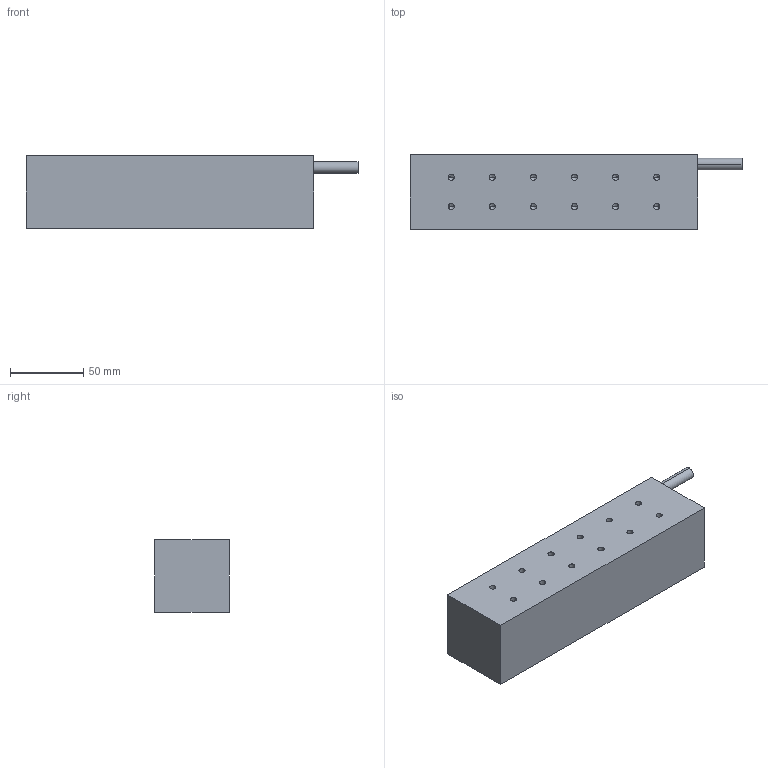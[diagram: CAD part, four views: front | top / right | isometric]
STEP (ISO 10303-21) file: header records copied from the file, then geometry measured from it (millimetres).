
FILE_DESCRIPTION (( 'STEP AP214' ), '1' );
FILE_NAME ('WKM30B雄赽.STEP', '2025-09-05T11:37:24', ( '' ), ( '' ), 'SwSTEP 2.0', 'SolidWorks 2016', '' );
FILE_SCHEMA (( 'AUTOMOTIVE_DESIGN' ));
Length unit declared in the file: millimetre
Products named in the file (1): WKM30B雄赽
Bounding box: 226 x 51 x 49.3 mm (x, y, z)
Volume: 493326.4 mm3; surface area: 45998.7 mm2
Topology: 1 solids, 1 shells, 57 faces, 138 edges, 72 vertices
Faces by surface type: cylinder 26, cone 24, plane 7
Entity records: 1782 total; most frequent: DIRECTION 282, CARTESIAN_POINT 244, ORIENTED_EDGE 228, EDGE_CURVE 114, AXIS2_PLACEMENT_3D 110, VERTEX_POINT 72, EDGE_LOOP 70, LINE 62
